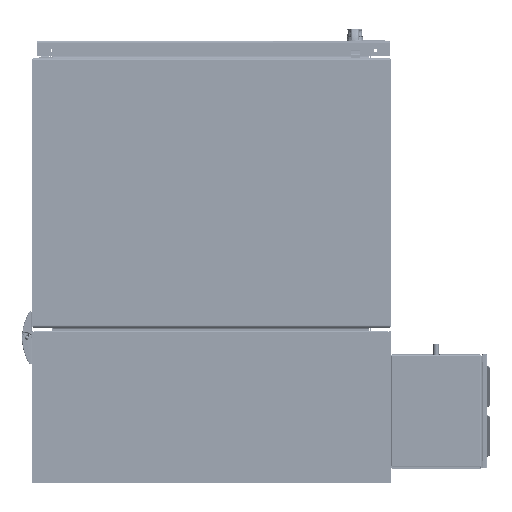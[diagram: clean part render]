
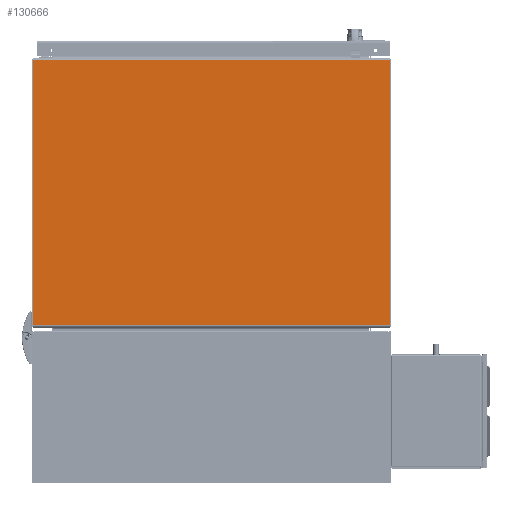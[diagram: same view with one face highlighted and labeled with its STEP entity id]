
A CAD part, front view. The second image highlights one B-rep face of the part: STEP entity #130666.
In plain terms, the highlighted planar face has unit normal (0, -1, 0).
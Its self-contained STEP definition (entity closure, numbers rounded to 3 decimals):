
#19359 = CARTESIAN_POINT ( 'NONE',  ( 298.171, 0., -220.885 ) ) ;
#19361 = CARTESIAN_POINT ( 'NONE',  ( 298.171, 0., 220.885 ) ) ;
#19363 = CARTESIAN_POINT ( 'NONE',  ( -298.171, 0., -220.885 ) ) ;
#19364 = CARTESIAN_POINT ( 'NONE',  ( -298.171, 0., 220.885 ) ) ;
#69091 = CARTESIAN_POINT ( 'NONE',  ( 298.171, 0., 225. ) ) ;
#69098 = PLANE ( 'NONE',  #208887 ) ;
#69103 = DIRECTION ( 'NONE',  ( 0., 1., 0. ) ) ;
#69104 = DIRECTION ( 'NONE',  ( 0., 0., 1. ) ) ;
#124344 = LINE ( 'NONE', #142907, #124350 ) ;
#124350 = VECTOR ( 'NONE', #142916, 1000. ) ;
#124364 = LINE ( 'NONE', #142933, #124366 ) ;
#124366 = VECTOR ( 'NONE', #142934, 1000. ) ;
#124370 = VECTOR ( 'NONE', #142974, 1000. ) ;
#124374 = VECTOR ( 'NONE', #142954, 1000. ) ;
#124379 = LINE ( 'NONE', #142942, #124374 ) ;
#124385 = LINE ( 'NONE', #142972, #124370 ) ;
#130666 = ADVANCED_FACE ( 'NONE', ( #211201 ), #69098, .F. ) ;
#131849 = EDGE_LOOP ( 'NONE', ( #195169, #195171, #195173, #195174 ) ) ;
#142907 = CARTESIAN_POINT ( 'NONE',  ( 298.171, 0., -225. ) ) ;
#142916 = DIRECTION ( 'NONE',  ( 0., 0., -1. ) ) ;
#142933 = CARTESIAN_POINT ( 'NONE',  ( 298.171, 0., 220.885 ) ) ;
#142934 = DIRECTION ( 'NONE',  ( -1., 0., 0. ) ) ;
#142942 = CARTESIAN_POINT ( 'NONE',  ( -298.171, 0., -225. ) ) ;
#142954 = DIRECTION ( 'NONE',  ( 0., 0., 1. ) ) ;
#142972 = CARTESIAN_POINT ( 'NONE',  ( -298.171, 0., -220.885 ) ) ;
#142974 = DIRECTION ( 'NONE',  ( 1., 0., 0. ) ) ;
#161602 = EDGE_CURVE ( 'NONE', #197051, #197049, #124344, .T. ) ;
#161609 = EDGE_CURVE ( 'NONE', #197051, #197055, #124364, .T. ) ;
#161618 = EDGE_CURVE ( 'NONE', #197053, #197055, #124379, .T. ) ;
#161625 = EDGE_CURVE ( 'NONE', #197053, #197049, #124385, .T. ) ;
#195169 = ORIENTED_EDGE ( 'NONE', *, *, #161625, .T. ) ;
#195171 = ORIENTED_EDGE ( 'NONE', *, *, #161602, .F. ) ;
#195173 = ORIENTED_EDGE ( 'NONE', *, *, #161609, .T. ) ;
#195174 = ORIENTED_EDGE ( 'NONE', *, *, #161618, .F. ) ;
#197049 = VERTEX_POINT ( 'NONE', #19359 ) ;
#197051 = VERTEX_POINT ( 'NONE', #19361 ) ;
#197053 = VERTEX_POINT ( 'NONE', #19363 ) ;
#197055 = VERTEX_POINT ( 'NONE', #19364 ) ;
#208887 = AXIS2_PLACEMENT_3D ( 'NONE', #69091, #69103, #69104 ) ;
#211201 = FACE_OUTER_BOUND ( 'NONE', #131849, .T. ) ;
